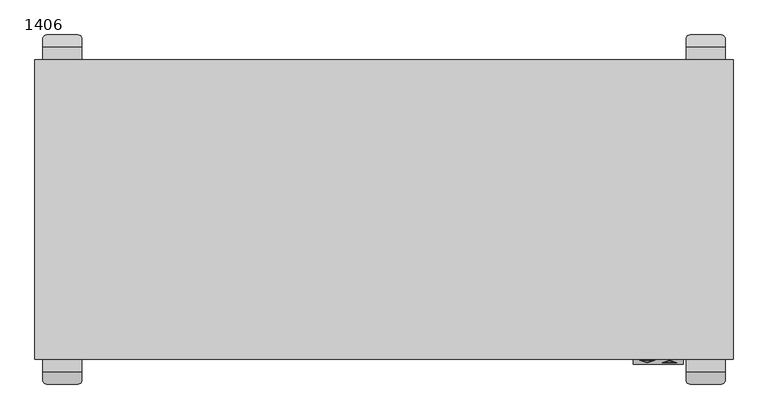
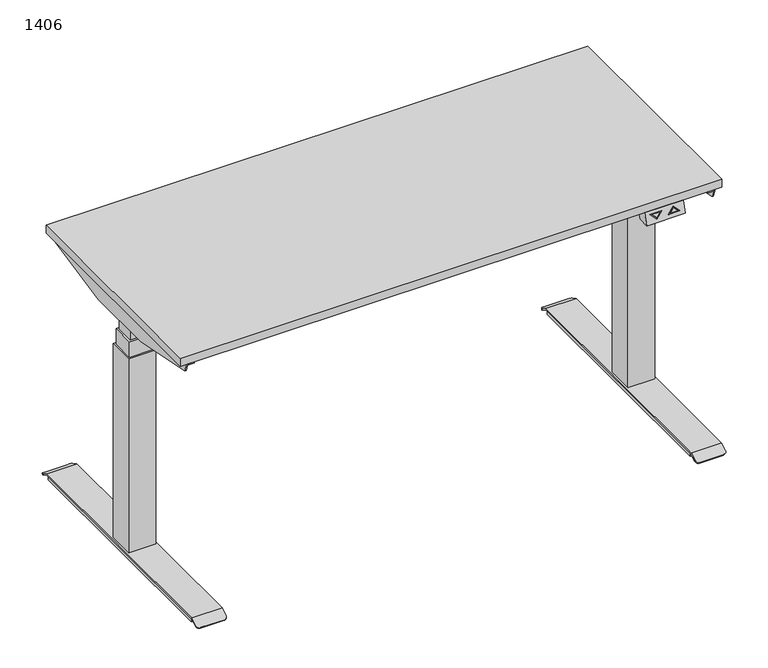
"""IFC4 building model written with IfcOpenShell, lengths in millimetres: furniture geometry, PINTA EQC : 1406."""

from ifc_helpers import new_model, si_unit, point, frame, frame_2d, origin, origin_with_axes, place, context, project, spatial, polyline, circle_curve, trimmed, segment, composite_curve, outline, extrude, faceted_brep, source, transform, mapped, element, save
from ifc_brep_helpers import plane_surface, cylinder_surface, advanced_brep


def furniture_1406_d38434c1(model_context):
    return source(origin(), model_context, "Body", "SolidModel", [
        faceted_brep([(500.0, -610.0, 668.0), (500.0, -580.0, 668.0), (600.0, -580.0, 668.0), (600.0, -610.0, 668.0), (500.0, -600.0, 698.0), (600.0, -600.0, 698.0), (600.0, -570.0, 698.0), (500.0, -570.0, 698.0), (512.5, -602.6491106, 690.0526681), (542.5, -602.6491106, 690.0526681), (527.5, -607.3925271, 675.8224186), (587.5, -606.9174824, 677.2475529), (557.5, -606.9174824, 677.2475529), (572.5, -602.1740659, 691.4778023), (527.5, -606.4980999, 678.5057002), (537.6715729, -603.2815662, 688.1553015), (517.3284271, -603.2815662, 688.1553015), (582.6715729, -606.2850268, 679.1449195), (572.5, -603.0684931, 688.7945208), (562.3284271, -606.2850268, 679.1449195), (542.5, -601.7004273, 689.7364403), (512.5, -601.7004273, 689.7364403), (527.5, -606.4438438, 675.5061908), (537.6715729, -602.3328829, 687.8390737), (527.5, -605.5494166, 678.1894724), (517.3284271, -602.3328829, 687.8390737), (557.5, -605.9687991, 676.9313251), (587.5, -605.9687991, 676.9313251), (572.5, -601.2253826, 691.1615746), (572.5, -602.1198098, 688.478293), (582.6715729, -605.3363436, 678.8286917), (562.3284271, -605.3363436, 678.8286917)], [[[0, 1, 2, 3]], [[4, 5, 6, 7]], [[1, 0, 4, 7]], [[3, 2, 6, 5]], [[0, 3, 5, 4], [8, 9, 10], [11, 12, 13]], [[14, 15, 16]], [[17, 18, 19]], [[2, 1, 7, 6]], [[20, 21, 22], [23, 24, 25]], [[26, 27, 28], [29, 30, 31]], [[21, 20, 9, 8]], [[22, 21, 8, 10]], [[20, 22, 10, 9]], [[27, 26, 12, 11]], [[28, 27, 11, 13]], [[26, 28, 13, 12]], [[24, 23, 15, 14]], [[25, 24, 14, 16]], [[23, 25, 16, 15]], [[30, 29, 18, 17]], [[31, 30, 17, 19]], [[29, 31, 19, 18]]]),
        extrude(outline(polyline([(-680.0, -219.7732113), (680.0, -219.7733158), (680.0, -239.7733158), (-680.0, -239.7732113), (-680.0, -219.7732113)])), frame((0.0, 0.0, 658.0), z_axis=(0.0, 0.0, 1.0), x_axis=(1.0, 0.0, 0.0)), (0.0, 0.0, 1.0), 40.0),
        extrude(outline(polyline([(-680.0, -359.7732114), (680.0, -359.7733158), (680.0, -379.7733158), (-680.0, -379.7732114), (-680.0, -359.7732114)])), frame((0.0, 0.0, 658.0), z_axis=(0.0, 0.0, 1.0), x_axis=(1.0, 0.0, 0.0)), (0.0, 0.0, 1.0), 40.0),
        extrude(outline(polyline([(-700.0, -600.0), (-700.0, 0.0), (700.0, 0.0), (700.0, -600.0), (-700.0, -600.0)])), frame((0.0, 0.0, 698.0), z_axis=(0.0, 0.0, 1.0), x_axis=(1.0, 0.0, 0.0)), (0.0, 0.0, 1.0), 22.0),
        advanced_brep(
        [(606.9772339, -620.0, 6.0), (606.9772339, -620.0, 16.0), (606.9772339, 20.0, 16.0), (606.9772339, 20.0, 6.0), (683.0227661, 20.0, 16.0), (683.0227661, 20.0, 6.0), (683.0227661, -620.0, 16.0), (683.0227661, -620.0, 6.0), (606.0, 25.0, 20.0), (606.0, 43.0199519, 9.908827), (606.0, 41.0655384, 6.4188029), (606.0, 23.9562578, 16.0), (606.0, -623.9562578, 16.0), (606.0, -641.0655384, 6.4188029), (606.0, -643.0199519, 9.908827), (606.0, -625.0, 20.0), (684.0, 23.9562578, 16.0), (684.0, 41.0655384, 6.4188029), (684.0, 43.0199519, 9.908827), (684.0, 25.0, 20.0), (684.0, -625.0, 20.0), (684.0, -643.0199519, 9.908827), (684.0, -641.0655384, 6.4188029), (684.0, -623.9562578, 16.0), (614.0, -650.0, 6.0), (676.0, -650.0, 6.0), (614.0, -648.0455865, 2.5099759), (676.0, -648.0455865, 2.5099759), (614.0, 48.0455865, 2.5099759), (676.0, 48.0455865, 2.5099759), (614.0, 50.0, 6.0), (676.0, 50.0, 6.0)],
        [
            (0, 1),
            (1, 2),
            (2, 3),
            (3, 0),
            (2, 4),
            (4, 5),
            (5, 3),
            (4, 6),
            (6, 7),
            (7, 5),
            (6, 1),
            (0, 7),
            (8, 9),
            (9, 10),
            (10, 11),
            (11, 12),
            (12, 13),
            (13, 14),
            (14, 15),
            (15, 8),
            (16, 17),
            (17, 18),
            (18, 19),
            (19, 20),
            (20, 21),
            (21, 22),
            (22, 23),
            (23, 16),
            (15, 20),
            (19, 8),
            (11, 16),
            (23, 12),
            (14, 24, circle_curve(frame((614.0, -643.0199519, 9.908827), z_axis=(0.0, -0.4886033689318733, 0.8725060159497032), x_axis=(0.0, 0.8725060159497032, 0.4886033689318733)), 8.0)),
            (24, 25),
            (25, 21, circle_curve(frame((676.0, -643.0199519, 9.908827), z_axis=(0.0, -0.4886033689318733, 0.8725060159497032), x_axis=(0.0, 0.8725060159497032, 0.4886033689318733)), 8.0)),
            (24, 26),
            (26, 27),
            (27, 25),
            (22, 27, circle_curve(frame((676.0, -641.0655384, 6.4188029), z_axis=(0.0, 0.4886033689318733, -0.8725060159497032), x_axis=(0.0, 0.8725060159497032, 0.4886033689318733)), 8.0)),
            (26, 13, circle_curve(frame((614.0, -641.0655384, 6.4188029), z_axis=(0.0, 0.4886033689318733, -0.8725060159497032), x_axis=(0.0, 0.8725060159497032, 0.4886033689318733)), 8.0)),
            (10, 28, circle_curve(frame((614.0, 41.0655384, 6.4188029), z_axis=(0.0, -0.4886033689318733, -0.8725060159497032), x_axis=(0.0, -0.8725060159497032, 0.4886033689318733)), 8.0)),
            (28, 29),
            (29, 17, circle_curve(frame((676.0, 41.0655384, 6.4188029), z_axis=(0.0, -0.4886033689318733, -0.8725060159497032), x_axis=(0.0, -0.8725060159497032, 0.4886033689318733)), 8.0)),
            (28, 30),
            (30, 31),
            (31, 29),
            (18, 31, circle_curve(frame((676.0, 43.0199519, 9.908827), z_axis=(0.0, 0.4886033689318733, 0.8725060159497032), x_axis=(0.0, -0.8725060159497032, 0.4886033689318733)), 8.0)),
            (30, 9, circle_curve(frame((614.0, 43.0199519, 9.908827), z_axis=(0.0, 0.4886033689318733, 0.8725060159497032), x_axis=(0.0, -0.8725060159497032, 0.4886033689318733)), 8.0)),
        ],
        [
            plane_surface(frame((606.9772339, -620.0, 16.0), z_axis=(-1.0, 0.0, 0.0), x_axis=(0.0, 0.0, -1.0))),
            plane_surface(frame((606.9772339, 20.0, 16.0), z_axis=(0.0, 1.0, 0.0), x_axis=(0.0, 0.0, -1.0))),
            plane_surface(frame((683.0227661, 20.0, 16.0), z_axis=(1.0, 0.0, 0.0), x_axis=(0.0, 0.0, -1.0))),
            plane_surface(frame((683.0227661, -620.0, 16.0), z_axis=(0.0, -1.0, 0.0), x_axis=(0.0, 0.0, -1.0))),
            plane_surface(frame((606.9772339, -623.4188232, 6.0), z_axis=(0.0, 0.0, -1.0), x_axis=(0.0, -1.0, 0.0))),
            plane_surface(frame((606.0, -300.0, 20.0), z_axis=(-1.0, 0.0, 0.0), x_axis=(0.0, -1.0, 0.0))),
            plane_surface(frame((684.0, -300.0, 20.0), z_axis=(1.0, 0.0, 0.0), x_axis=(0.0, 1.0, 0.0))),
            plane_surface(frame((606.0, 25.0, 20.0), z_axis=(0.0, 0.0, 1.0), x_axis=(1.0, 0.0, 0.0))),
            plane_surface(frame((606.0, -623.9562578, 16.0), z_axis=(0.0, 0.0, -1.0), x_axis=(1.0, 0.0, 0.0))),
            plane_surface(frame((606.0, -625.0, 20.0), z_axis=(0.0, -0.4886033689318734, 0.8725060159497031), x_axis=(1.0, 0.0, 0.0))),
            plane_surface(frame((606.0, -650.0, 6.0), z_axis=(0.0, -0.872506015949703, -0.4886033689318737), x_axis=(1.0, 0.0, 0.0))),
            plane_surface(frame((606.0, -648.0455865, 2.5099759), z_axis=(0.0, 0.4886033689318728, -0.8725060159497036), x_axis=(1.0, 0.0, 0.0))),
            plane_surface(frame((606.0, 23.9562578, 16.0), z_axis=(0.0, -0.4886033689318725, -0.8725060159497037), x_axis=(1.0, 0.0, 0.0))),
            plane_surface(frame((606.0, 48.0455865, 2.5099759), z_axis=(0.0, 0.8725060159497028, -0.48860336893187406), x_axis=(1.0, 0.0, 0.0))),
            plane_surface(frame((606.0, 50.0, 6.0), z_axis=(0.0, 0.48860336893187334, 0.8725060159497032), x_axis=(1.0, 0.0, 0.0))),
            cylinder_surface(frame((614.0, -643.0199519, 9.908827), z_axis=(0.0, -0.4886033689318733, 0.8725060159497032), x_axis=(0.0, 0.8725060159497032, 0.4886033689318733)), 8.0),
            cylinder_surface(frame((676.0, -643.0199519, 9.908827), z_axis=(0.0, -0.4886033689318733, 0.8725060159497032), x_axis=(0.0, 0.8725060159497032, 0.4886033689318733)), 8.0),
            cylinder_surface(frame((614.0, 43.0199519, 9.908827), z_axis=(0.0, 0.4886033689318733, 0.8725060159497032), x_axis=(0.0, -0.8725060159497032, 0.4886033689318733)), 8.0),
            cylinder_surface(frame((676.0, 43.0199519, 9.908827), z_axis=(0.0, 0.4886033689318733, 0.8725060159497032), x_axis=(0.0, -0.8725060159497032, 0.4886033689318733)), 8.0),
        ],
        [
            (0, [[1, 2, 3, 4]]),
            (1, [[-3, 5, 6, 7]]),
            (2, [[-6, 8, 9, 10]]),
            (3, [[-9, 11, -1, 12]]),
            (4, [[-4, -7, -10, -12]]),
            (5, [[13, 14, 15, 16, 17, 18, 19, 20]]),
            (6, [[21, 22, 23, 24, 25, 26, 27, 28]]),
            (7, [[29, -24, 30, -20]]),
            (8, [[31, -28, 32, -16], [-11, -8, -5, -2]]),
            (9, [[-19, 33, 34, 35, -25, -29]]),
            (10, [[36, 37, 38, -34]]),
            (11, [[-27, 39, -37, 40, -17, -32]]),
            (12, [[-15, 41, 42, 43, -21, -31]]),
            (13, [[44, 45, 46, -42]]),
            (14, [[-23, 47, -45, 48, -13, -30]]),
            (15, [[-40, -36, -33, -18]]),
            (16, [[-35, -38, -39, -26]]),
            (17, [[-48, -44, -41, -14]]),
            (18, [[-43, -46, -47, -22]]),
        ],
    ),
        faceted_brep([(479.4551307, -360.0, 698.0), (662.9996948, -360.0, 698.0), (662.9996948, -600.0, 698.0), (679.4551307, -600.0, 698.0), (683.0, -600.0, 698.0), (683.0, 0.0, 698.0), (679.4551307, 0.0, 698.0), (662.9996948, 0.0, 698.0), (662.9996948, -240.0, 698.0), (479.4551307, -240.0, 698.0), (479.4551307, -360.0, 635.2327881), (479.4551307, -240.0, 635.2327881), (679.4551307, -240.0, 635.2327881), (679.4551307, -203.8252348, 635.2327881), (683.0, -203.8252348, 635.2327881), (683.0, -396.1747652, 635.2327881), (679.4551307, -396.1747652, 635.2327881), (679.4551307, -360.0, 635.2327881), (662.9996948, -240.0, 694.9093018), (679.4551307, -240.0, 694.9093018), (679.4551307, -360.0, 694.9093018), (662.9996948, -360.0, 694.9093018), (679.4551307, -600.0, 694.9093018), (662.9996948, -600.0, 694.9093018), (679.4551307, 0.0, 694.9093018), (662.9996948, 0.0, 694.9093018), (679.4551307, -1.1249222, 694.9093018), (679.4551307, -598.8750778, 694.9093018), (679.4551307, -8.5505036, 674.5076845), (679.4551307, -591.4494964, 674.5076845), (683.0, -8.5505036, 674.5076845), (683.0, -591.4494964, 674.5076845)], [[[0, 1, 2, 3, 4, 5, 6, 7, 8, 9]], [[10, 11, 12, 13, 14, 15, 16, 17]], [[9, 11, 10, 0]], [[11, 9, 8, 18, 19, 12]], [[17, 20, 21, 1, 0, 10]], [[22, 3, 2, 23]], [[24, 25, 7, 6]], [[24, 26, 19, 18, 25]], [[23, 21, 20, 27, 22]], [[2, 1, 21, 23]], [[25, 18, 8, 7]], [[13, 12, 19, 26, 28]], [[29, 27, 20, 17, 16]], [[15, 14, 30, 5, 4, 31]], [[16, 15, 31, 29]], [[22, 27, 3]], [[6, 26, 24]], [[4, 3, 27, 29, 31]], [[28, 30, 14, 13]], [[30, 28, 26, 6, 5]]]),
        extrude(outline(composite_curve([segment(trimmed(circle_curve(frame_2d((645.0, -605.0)), 25.0), [point((670.0, -605.0))], [point((620.0, -605.0))], False, "CARTESIAN"), True, "CONTINUOUS"), segment(trimmed(circle_curve(frame_2d((645.0, -605.0)), 25.0), [point((620.0, -605.0))], [point((670.0, -605.0))], False, "CARTESIAN"), True, "CONTINUOUS")], self_intersect=False)), origin_with_axes(), (0.0, 0.0, 1.0), 6.0),
        extrude(outline(composite_curve([segment(trimmed(circle_curve(frame_2d((645.0, 5.0)), 25.0), [point((670.0, 5.0))], [point((620.0, 5.0))], False, "CARTESIAN"), True, "CONTINUOUS"), segment(trimmed(circle_curve(frame_2d((645.0, 5.0)), 25.0), [point((620.0, 5.0))], [point((670.0, 5.0))], False, "CARTESIAN"), True, "CONTINUOUS")], self_intersect=False)), origin_with_axes(), (0.0, 0.0, 1.0), 6.0),
        faceted_brep([(610.0, -265.0, 550.0), (610.0, -334.9621325, 550.0), (680.0, -334.9621325, 550.0), (680.0, -265.0, 550.0), (675.0, -270.0, 550.0), (675.0, -329.9621325, 550.0), (615.0, -329.9621325, 550.0), (615.0, -270.0, 550.0), (610.0, -265.0, 20.0), (680.0, -265.0, 20.0), (680.0, -334.9621325, 20.0), (610.0, -334.9621325, 20.0), (615.0, -270.0, 592.616394), (615.0, -329.9621325, 592.616394), (675.0, -329.9621325, 592.616394), (675.0, -270.0, 592.616394), (670.0, -275.0, 592.616394), (670.0, -324.9621325, 592.616394), (620.0, -324.9621325, 592.616394), (620.0, -275.0, 592.616394), (620.0, -275.0, 635.2327881), (620.0, -324.9621325, 635.2327881), (670.0, -324.9621325, 635.2327881), (670.0, -275.0, 635.2327881)], [[[0, 1, 2, 3], [4, 5, 6, 7]], [[8, 9, 10, 11]], [[3, 9, 8, 0]], [[2, 10, 9, 3]], [[1, 11, 10, 2]], [[0, 8, 11, 1]], [[12, 13, 14, 15], [16, 17, 18, 19]], [[15, 4, 7, 12]], [[14, 5, 4, 15]], [[13, 6, 5, 14]], [[12, 7, 6, 13]], [[20, 21, 22, 23]], [[23, 16, 19, 20]], [[22, 17, 16, 23]], [[21, 18, 17, 22]], [[20, 19, 18, 21]]]),
        advanced_brep(
        [(-606.9772339, -620.0, 6.0), (-606.9772339, 20.0, 6.0), (-606.9772339, 20.0, 16.0), (-606.9772339, -620.0, 16.0), (-683.0227661, 20.0, 6.0), (-683.0227661, 20.0, 16.0), (-683.0227661, -620.0, 6.0), (-683.0227661, -620.0, 16.0), (-606.0, 25.0, 20.0), (-606.0, -625.0, 20.0), (-606.0, -643.0199519, 9.908827), (-606.0, -641.0655384, 6.4188029), (-606.0, -623.9562578, 16.0), (-606.0, 23.9562578, 16.0), (-606.0, 41.0655384, 6.4188029), (-606.0, 43.0199519, 9.908827), (-684.0, 23.9562578, 16.0), (-684.0, -623.9562578, 16.0), (-684.0, -641.0655384, 6.4188029), (-684.0, -643.0199519, 9.908827), (-684.0, -625.0, 20.0), (-684.0, 25.0, 20.0), (-684.0, 43.0199519, 9.908827), (-684.0, 41.0655384, 6.4188029), (-676.0, -650.0, 6.0), (-614.0, -650.0, 6.0), (-676.0, -648.0455865, 2.5099759), (-614.0, -648.0455865, 2.5099759), (-676.0, 48.0455865, 2.5099759), (-614.0, 48.0455865, 2.5099759), (-676.0, 50.0, 6.0), (-614.0, 50.0, 6.0)],
        [
            (0, 1),
            (1, 2),
            (2, 3),
            (3, 0),
            (1, 4),
            (4, 5),
            (5, 2),
            (4, 6),
            (6, 7),
            (7, 5),
            (6, 0),
            (3, 7),
            (8, 9),
            (9, 10),
            (10, 11),
            (11, 12),
            (12, 13),
            (13, 14),
            (14, 15),
            (15, 8),
            (16, 17),
            (17, 18),
            (18, 19),
            (19, 20),
            (20, 21),
            (21, 22),
            (22, 23),
            (23, 16),
            (8, 21),
            (20, 9),
            (12, 17),
            (16, 13),
            (19, 24, circle_curve(frame((-676.0, -643.0199519, 9.908827), z_axis=(0.0, -0.4886033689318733, 0.8725060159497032), x_axis=(0.0, 0.8725060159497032, 0.4886033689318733)), 8.0)),
            (24, 25),
            (25, 10, circle_curve(frame((-614.0, -643.0199519, 9.908827), z_axis=(0.0, -0.4886033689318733, 0.8725060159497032), x_axis=(0.0, 0.8725060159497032, 0.4886033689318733)), 8.0)),
            (24, 26),
            (26, 27),
            (27, 25),
            (11, 27, circle_curve(frame((-614.0, -641.0655384, 6.4188029), z_axis=(0.0, 0.4886033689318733, -0.8725060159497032), x_axis=(0.0, 0.8725060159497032, 0.4886033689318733)), 8.0)),
            (26, 18, circle_curve(frame((-676.0, -641.0655384, 6.4188029), z_axis=(0.0, 0.4886033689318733, -0.8725060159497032), x_axis=(0.0, 0.8725060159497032, 0.4886033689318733)), 8.0)),
            (23, 28, circle_curve(frame((-676.0, 41.0655384, 6.4188029), z_axis=(0.0, -0.4886033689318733, -0.8725060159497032), x_axis=(0.0, -0.8725060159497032, 0.4886033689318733)), 8.0)),
            (28, 29),
            (29, 14, circle_curve(frame((-614.0, 41.0655384, 6.4188029), z_axis=(0.0, -0.4886033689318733, -0.8725060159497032), x_axis=(0.0, -0.8725060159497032, 0.4886033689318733)), 8.0)),
            (28, 30),
            (30, 31),
            (31, 29),
            (15, 31, circle_curve(frame((-614.0, 43.0199519, 9.908827), z_axis=(0.0, 0.4886033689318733, 0.8725060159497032), x_axis=(0.0, -0.8725060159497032, 0.4886033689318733)), 8.0)),
            (30, 22, circle_curve(frame((-676.0, 43.0199519, 9.908827), z_axis=(0.0, 0.4886033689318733, 0.8725060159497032), x_axis=(0.0, -0.8725060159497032, 0.4886033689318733)), 8.0)),
        ],
        [
            plane_surface(frame((-606.9772339, -620.0, 16.0), z_axis=(1.0, 0.0, 0.0), x_axis=(0.0, 0.0, -1.0))),
            plane_surface(frame((-606.9772339, 20.0, 16.0), z_axis=(0.0, 1.0, 0.0), x_axis=(0.0, 0.0, -1.0))),
            plane_surface(frame((-683.0227661, 20.0, 16.0), z_axis=(-1.0, 0.0, 0.0), x_axis=(0.0, 0.0, -1.0))),
            plane_surface(frame((-683.0227661, -620.0, 16.0), z_axis=(0.0, -1.0, 0.0), x_axis=(0.0, 0.0, -1.0))),
            plane_surface(frame((-606.9772339, -623.4188232, 6.0), z_axis=(0.0, 0.0, -1.0), x_axis=(0.0, -1.0, 0.0))),
            plane_surface(frame((-606.0, -300.0, 20.0), z_axis=(1.0, 0.0, 0.0), x_axis=(0.0, -1.0, 0.0))),
            plane_surface(frame((-684.0, -300.0, 20.0), z_axis=(-1.0, 0.0, 0.0), x_axis=(0.0, 1.0, 0.0))),
            plane_surface(frame((-606.0, 25.0, 20.0), z_axis=(0.0, 0.0, 1.0), x_axis=(-1.0, 0.0, 0.0))),
            plane_surface(frame((-606.0, -623.9562578, 16.0), z_axis=(0.0, 0.0, -1.0), x_axis=(-1.0, 0.0, 0.0))),
            plane_surface(frame((-606.0, -625.0, 20.0), z_axis=(0.0, -0.4886033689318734, 0.8725060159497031), x_axis=(-1.0, 0.0, 0.0))),
            plane_surface(frame((-606.0, -650.0, 6.0), z_axis=(0.0, -0.872506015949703, -0.4886033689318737), x_axis=(-1.0, 0.0, 0.0))),
            plane_surface(frame((-606.0, -648.0455865, 2.5099759), z_axis=(0.0, 0.4886033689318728, -0.8725060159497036), x_axis=(-1.0, 0.0, 0.0))),
            plane_surface(frame((-606.0, 23.9562578, 16.0), z_axis=(0.0, -0.4886033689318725, -0.8725060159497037), x_axis=(-1.0, 0.0, 0.0))),
            plane_surface(frame((-606.0, 48.0455865, 2.5099759), z_axis=(0.0, 0.8725060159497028, -0.48860336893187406), x_axis=(-1.0, 0.0, 0.0))),
            plane_surface(frame((-606.0, 50.0, 6.0), z_axis=(0.0, 0.48860336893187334, 0.8725060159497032), x_axis=(-1.0, 0.0, 0.0))),
            cylinder_surface(frame((-614.0, -643.0199519, 9.908827), z_axis=(0.0, -0.4886033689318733, 0.8725060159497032), x_axis=(0.0, 0.8725060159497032, 0.4886033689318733)), 8.0),
            cylinder_surface(frame((-676.0, -643.0199519, 9.908827), z_axis=(0.0, -0.4886033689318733, 0.8725060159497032), x_axis=(0.0, 0.8725060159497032, 0.4886033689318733)), 8.0),
            cylinder_surface(frame((-614.0, 43.0199519, 9.908827), z_axis=(0.0, 0.4886033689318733, 0.8725060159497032), x_axis=(0.0, -0.8725060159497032, 0.4886033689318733)), 8.0),
            cylinder_surface(frame((-676.0, 43.0199519, 9.908827), z_axis=(0.0, 0.4886033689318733, 0.8725060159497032), x_axis=(0.0, -0.8725060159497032, 0.4886033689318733)), 8.0),
        ],
        [
            (0, [[1, 2, 3, 4]]),
            (1, [[5, 6, 7, -2]]),
            (2, [[8, 9, 10, -6]]),
            (3, [[11, -4, 12, -9]]),
            (4, [[-11, -8, -5, -1]]),
            (5, [[13, 14, 15, 16, 17, 18, 19, 20]]),
            (6, [[21, 22, 23, 24, 25, 26, 27, 28]]),
            (7, [[-13, 29, -25, 30]]),
            (8, [[-17, 31, -21, 32], [-3, -7, -10, -12]]),
            (9, [[-30, -24, 33, 34, 35, -14]]),
            (10, [[-34, 36, 37, 38]]),
            (11, [[-31, -16, 39, -37, 40, -22]]),
            (12, [[-32, -28, 41, 42, 43, -18]]),
            (13, [[-42, 44, 45, 46]]),
            (14, [[-29, -20, 47, -45, 48, -26]]),
            (15, [[-15, -35, -38, -39]]),
            (16, [[-23, -40, -36, -33]]),
            (17, [[-19, -43, -46, -47]]),
            (18, [[-27, -48, -44, -41]]),
        ],
    ),
        faceted_brep([(-479.4551307, -360.0, 698.0), (-479.4551307, -240.0, 698.0), (-662.9996948, -240.0, 698.0), (-662.9996948, 0.0, 698.0), (-679.4551307, 0.0, 698.0), (-683.0, 0.0, 698.0), (-683.0, -600.0, 698.0), (-679.4551307, -600.0, 698.0), (-662.9996948, -600.0, 698.0), (-662.9996948, -360.0, 698.0), (-479.4551307, -360.0, 635.2327881), (-679.4551307, -360.0, 635.2327881), (-679.4551307, -396.1747652, 635.2327881), (-683.0, -396.1747652, 635.2327881), (-683.0, -203.8252348, 635.2327881), (-679.4551307, -203.8252348, 635.2327881), (-679.4551307, -240.0, 635.2327881), (-479.4551307, -240.0, 635.2327881), (-679.4551307, -240.0, 694.9093018), (-662.9996948, -240.0, 694.9093018), (-662.9996948, -360.0, 694.9093018), (-679.4551307, -360.0, 694.9093018), (-679.4551307, -600.0, 694.9093018), (-662.9996948, -600.0, 694.9093018), (-679.4551307, 0.0, 694.9093018), (-662.9996948, 0.0, 694.9093018), (-679.4551307, -598.8750778, 694.9093018), (-679.4551307, -1.1249222, 694.9093018), (-679.4551307, -591.4494964, 674.5076845), (-679.4551307, -8.5505036, 674.5076845), (-683.0, -591.4494964, 674.5076845), (-683.0, -8.5505036, 674.5076845)], [[[0, 1, 2, 3, 4, 5, 6, 7, 8, 9]], [[10, 11, 12, 13, 14, 15, 16, 17]], [[1, 0, 10, 17]], [[17, 16, 18, 19, 2, 1]], [[11, 10, 0, 9, 20, 21]], [[22, 23, 8, 7]], [[24, 4, 3, 25]], [[23, 22, 26, 21, 20]], [[24, 25, 19, 18, 27]], [[8, 23, 20, 9]], [[25, 3, 2, 19]], [[28, 12, 11, 21, 26]], [[15, 29, 27, 18, 16]], [[13, 30, 6, 5, 31, 14]], [[12, 28, 30, 13]], [[22, 7, 26]], [[4, 24, 27]], [[6, 30, 28, 26, 7]], [[29, 15, 14, 31]], [[31, 5, 4, 27, 29]]]),
        extrude(outline(composite_curve([segment(trimmed(circle_curve(frame_2d((-645.0, -605.0)), 25.0), [point((-670.0, -605.0))], [point((-620.0, -605.0))], False, "CARTESIAN"), True, "CONTINUOUS"), segment(trimmed(circle_curve(frame_2d((-645.0, -605.0)), 25.0), [point((-620.0, -605.0))], [point((-670.0, -605.0))], False, "CARTESIAN"), True, "CONTINUOUS")], self_intersect=False)), origin_with_axes(), (0.0, 0.0, 1.0), 6.0),
        extrude(outline(composite_curve([segment(trimmed(circle_curve(frame_2d((-645.0, 5.0)), 25.0), [point((-670.0, 5.0))], [point((-620.0, 5.0))], False, "CARTESIAN"), True, "CONTINUOUS"), segment(trimmed(circle_curve(frame_2d((-645.0, 5.0)), 25.0), [point((-620.0, 5.0))], [point((-670.0, 5.0))], False, "CARTESIAN"), True, "CONTINUOUS")], self_intersect=False)), origin_with_axes(), (0.0, 0.0, 1.0), 6.0),
        faceted_brep([(-610.0, -265.0, 550.0), (-680.0, -265.0, 550.0), (-680.0, -334.9621325, 550.0), (-610.0, -334.9621325, 550.0), (-675.0, -270.0, 550.0), (-615.0, -270.0, 550.0), (-615.0, -329.9621325, 550.0), (-675.0, -329.9621325, 550.0), (-610.0, -265.0, 20.0), (-610.0, -334.9621325, 20.0), (-680.0, -334.9621325, 20.0), (-680.0, -265.0, 20.0), (-615.0, -270.0, 592.616394), (-675.0, -270.0, 592.616394), (-675.0, -329.9621325, 592.616394), (-615.0, -329.9621325, 592.616394), (-670.0, -275.0, 592.616394), (-620.0, -275.0, 592.616394), (-620.0, -324.9621325, 592.616394), (-670.0, -324.9621325, 592.616394), (-620.0, -275.0, 635.2327881), (-670.0, -275.0, 635.2327881), (-670.0, -324.9621325, 635.2327881), (-620.0, -324.9621325, 635.2327881)], [[[0, 1, 2, 3], [4, 5, 6, 7]], [[8, 9, 10, 11]], [[1, 0, 8, 11]], [[2, 1, 11, 10]], [[3, 2, 10, 9]], [[0, 3, 9, 8]], [[12, 13, 14, 15], [16, 17, 18, 19]], [[13, 12, 5, 4]], [[14, 13, 4, 7]], [[15, 14, 7, 6]], [[12, 15, 6, 5]], [[20, 21, 22, 23]], [[21, 20, 17, 16]], [[22, 21, 16, 19]], [[23, 22, 19, 18]], [[20, 23, 18, 17]]]),
    ])


if __name__ == "__main__":
    model = new_model("IFC4")
    model_context = context("Model", 3, world=origin())
    ifc_project = project(units=[si_unit("LENGTHUNIT", "METRE", prefix="MILLI")], contexts=[model_context])
    site = spatial("IfcSite", under=ifc_project)
    building = spatial("IfcBuilding", under=site)
    placement = place(None, origin())
    furniture_1406_shape = furniture_1406_d38434c1(model_context)
    element("IfcFurniture", 1, ObjectType="PINTA EQC : 1406", at=placement, inside=building, context=model_context, shape_type="MappedRepresentation", body=[
        mapped(furniture_1406_shape, transform((0.0, 0.0, 0.0), x_axis=(1.0, 0.0, 0.0), y_axis=(0.0, 1.0, 0.0), z_axis=(0.0, 0.0, 1.0))),
    ])
    save(model, "model.ifc")
